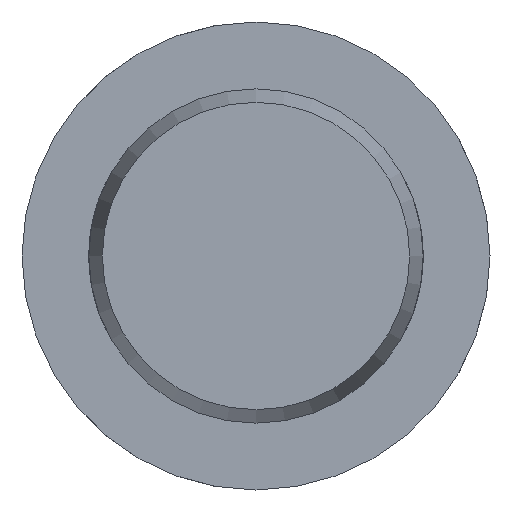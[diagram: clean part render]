
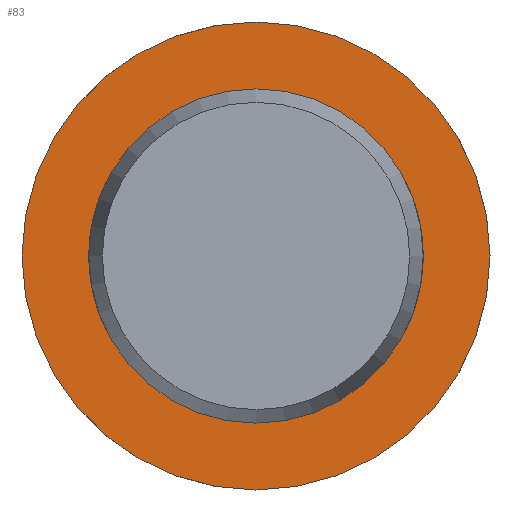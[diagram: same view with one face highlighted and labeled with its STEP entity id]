
A CAD part, left-side view. The second image highlights one B-rep face of the part: STEP entity #83.
In plain terms, the highlighted planar face has unit normal (-1, 0, 0).
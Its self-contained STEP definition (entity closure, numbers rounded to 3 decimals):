
#83 = ADVANCED_FACE( '', ( #129, #130 ), #131, .F. );
#129 = FACE_OUTER_BOUND( '', #208, .T. );
#130 = FACE_BOUND( '', #209, .T. );
#131 = PLANE( '', #210 );
#208 = EDGE_LOOP( '', ( #325 ) );
#209 = EDGE_LOOP( '', ( #326 ) );
#210 = AXIS2_PLACEMENT_3D( '', #327, #328, #329 );
#325 = ORIENTED_EDGE( '', *, *, #493, .F. );
#326 = ORIENTED_EDGE( '', *, *, #483, .T. );
#327 = CARTESIAN_POINT( '', ( 100.5, 10., 0. ) );
#328 = DIRECTION( '', ( 1., 0., 0. ) );
#329 = DIRECTION( '', ( 0., 0., -1. ) );
#483 = EDGE_CURVE( '', #554, #554, #555, .T. );
#493 = EDGE_CURVE( '', #572, #572, #573, .T. );
#554 = VERTEX_POINT( '', #759 );
#555 = CIRCLE( '', #760, 10. );
#572 = VERTEX_POINT( '', #942 );
#573 = CIRCLE( '', #943, 14. );
#759 = CARTESIAN_POINT( '', ( 100.5, 0., -10. ) );
#760 = AXIS2_PLACEMENT_3D( '', #1006, #1007, #1008 );
#942 = CARTESIAN_POINT( '', ( 100.5, 0., -14. ) );
#943 = AXIS2_PLACEMENT_3D( '', #1027, #1028, #1029 );
#1006 = CARTESIAN_POINT( '', ( 100.5, 0., 0. ) );
#1007 = DIRECTION( '', ( 1., 0., 0. ) );
#1008 = DIRECTION( '', ( 0., 0., -1. ) );
#1027 = CARTESIAN_POINT( '', ( 100.5, 0., 0. ) );
#1028 = DIRECTION( '', ( 1., 0., 0. ) );
#1029 = DIRECTION( '', ( 0., 0., -1. ) );
